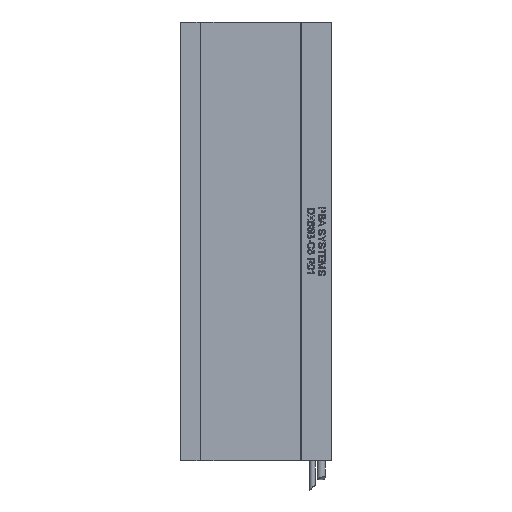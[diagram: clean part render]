
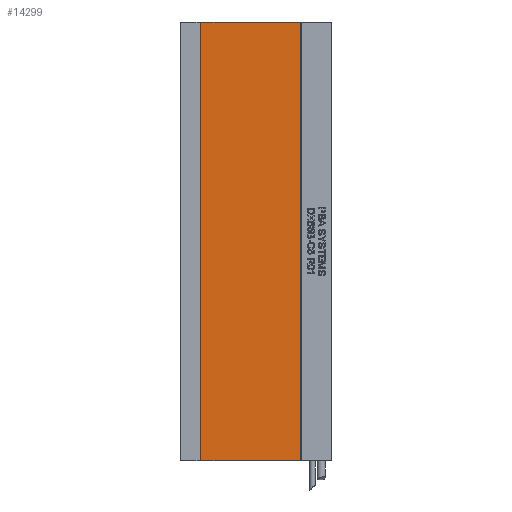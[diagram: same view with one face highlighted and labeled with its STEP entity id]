
A CAD part, left-side view. The second image highlights one B-rep face of the part: STEP entity #14299.
In plain terms, the highlighted planar face has unit normal (-1, 0, 0) as drawn and (1, 0, 0) by its records, which use the part's own axes.
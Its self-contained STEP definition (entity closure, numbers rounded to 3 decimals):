
#1017 = DIRECTION ( 'NONE',  ( 0., 1., 0. ) ) ;
#2610 = ORIENTED_EDGE ( 'NONE', *, *, #17262, .T. ) ;
#2658 = VECTOR ( 'NONE', #31867, 1000. ) ;
#2935 = LINE ( 'NONE', #17569, #2658 ) ;
#3064 = EDGE_CURVE ( 'NONE', #4419, #25515, #11270, .T. ) ;
#4323 = EDGE_CURVE ( 'NONE', #25515, #16846, #6411, .T. ) ;
#4419 = VERTEX_POINT ( 'NONE', #11156 ) ;
#6411 = LINE ( 'NONE', #14566, #6443 ) ;
#6443 = VECTOR ( 'NONE', #20548, 1000. ) ;
#6569 = CARTESIAN_POINT ( 'NONE',  ( 5.6, 14.2, 0. ) ) ;
#7956 = CARTESIAN_POINT ( 'NONE',  ( 5.6, 82.7, 0. ) ) ;
#11156 = CARTESIAN_POINT ( 'NONE',  ( 5.6, 14.2, 301. ) ) ;
#11270 = LINE ( 'NONE', #18431, #11436 ) ;
#11436 = VECTOR ( 'NONE', #17805, 1000. ) ;
#11503 = AXIS2_PLACEMENT_3D ( 'NONE', #19745, #17053, #36984 ) ;
#13509 = FACE_OUTER_BOUND ( 'NONE', #29628, .T. ) ;
#14164 = PLANE ( 'NONE',  #11503 ) ;
#14299 = ADVANCED_FACE ( 'NONE', ( #13509 ), #14164, .F. ) ;
#14566 = CARTESIAN_POINT ( 'NONE',  ( 5.6, 82.7, 301. ) ) ;
#15746 = CARTESIAN_POINT ( 'NONE',  ( 5.6, 14.2, 0. ) ) ;
#16403 = ORIENTED_EDGE ( 'NONE', *, *, #29444, .T. ) ;
#16846 = VERTEX_POINT ( 'NONE', #7956 ) ;
#17053 = DIRECTION ( 'NONE',  ( -1., 0., 0. ) ) ;
#17255 = ORIENTED_EDGE ( 'NONE', *, *, #4323, .F. ) ;
#17262 = EDGE_CURVE ( 'NONE', #4419, #21279, #2935, .T. ) ;
#17569 = CARTESIAN_POINT ( 'NONE',  ( 5.6, 14.2, 301. ) ) ;
#17805 = DIRECTION ( 'NONE',  ( 0., 1., 0. ) ) ;
#18431 = CARTESIAN_POINT ( 'NONE',  ( 5.6, 14.2, 301. ) ) ;
#19745 = CARTESIAN_POINT ( 'NONE',  ( 5.6, 14.2, 301. ) ) ;
#20548 = DIRECTION ( 'NONE',  ( 0., 0., -1. ) ) ;
#21273 = VECTOR ( 'NONE', #1017, 1000. ) ;
#21279 = VERTEX_POINT ( 'NONE', #6569 ) ;
#21304 = LINE ( 'NONE', #15746, #21273 ) ;
#25515 = VERTEX_POINT ( 'NONE', #30202 ) ;
#29444 = EDGE_CURVE ( 'NONE', #21279, #16846, #21304, .T. ) ;
#29628 = EDGE_LOOP ( 'NONE', ( #16403, #17255, #36418, #2610 ) ) ;
#30202 = CARTESIAN_POINT ( 'NONE',  ( 5.6, 82.7, 301. ) ) ;
#31867 = DIRECTION ( 'NONE',  ( 0., 0., -1. ) ) ;
#36418 = ORIENTED_EDGE ( 'NONE', *, *, #3064, .F. ) ;
#36984 = DIRECTION ( 'NONE',  ( 0., 0., 1. ) ) ;
